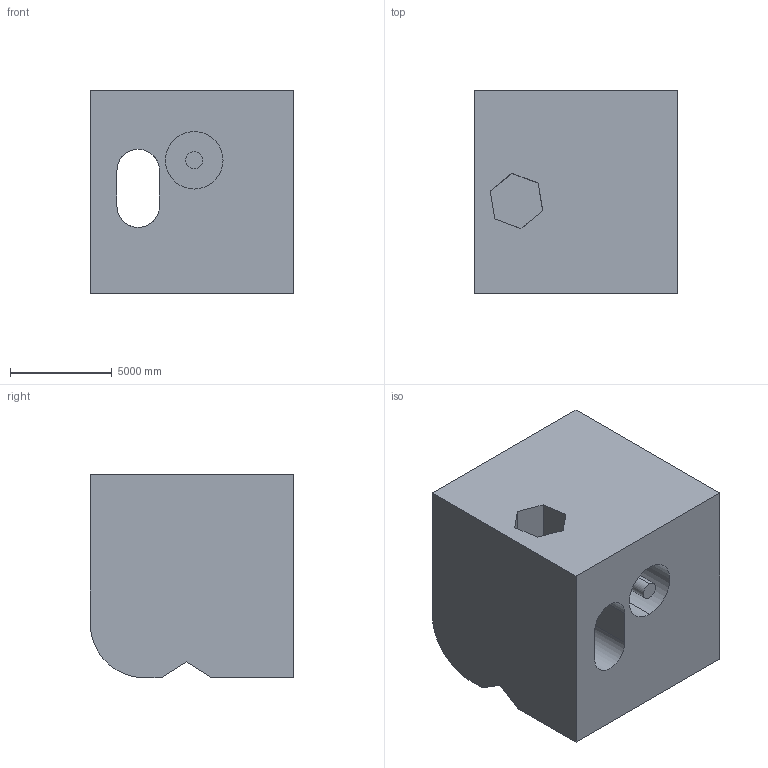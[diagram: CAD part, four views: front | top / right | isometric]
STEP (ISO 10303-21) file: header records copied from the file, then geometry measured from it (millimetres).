
FILE_DESCRIPTION (( 'STEP AP203' ), '1' );
FILE_NAME ('1493.STEP', '2022-08-26T10:20:57', ( 'user' ), ( '' ), 'SwSTEP 2.0', 'SolidWorks 2021', '' );
FILE_SCHEMA (( 'CONFIG_CONTROL_DESIGN' ));
Length unit declared in the file: centimetre
Products named in the file (1): 1493
Bounding box: 10000 x 10000 x 10000 mm (x, y, z)
Volume: 849666870618.5 mm3; surface area: 768098740.7 mm2
Topology: 1 solids, 1 shells, 33 faces, 90 edges, 60 vertices
Faces by surface type: plane 24, cylinder 9
Entity records: 1125 total; most frequent: CARTESIAN_POINT 220, ORIENTED_EDGE 180, DIRECTION 162, EDGE_CURVE 90, LINE 62, VECTOR 62, VERTEX_POINT 60, AXIS2_PLACEMENT_3D 50
